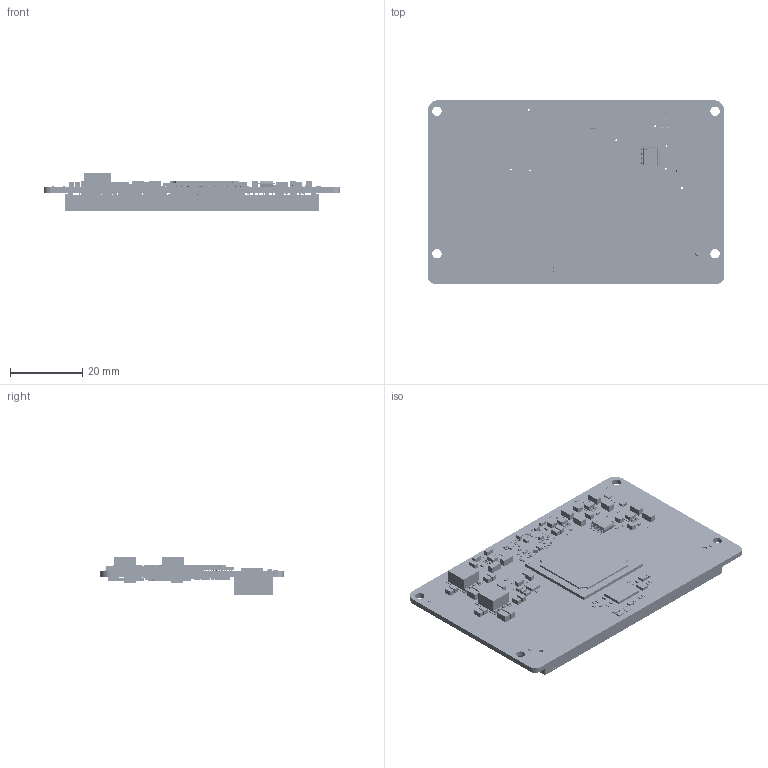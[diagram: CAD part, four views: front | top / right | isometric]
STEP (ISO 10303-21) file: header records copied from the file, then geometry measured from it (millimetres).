
FILE_DESCRIPTION(('Open CASCADE Model'),'2;1');
FILE_NAME('Open CASCADE Shape Model','2024-10-18T15:11:37',('Author'),( 'Open CASCADE'),'Open CASCADE STEP processor 7.5','Open CASCADE 7.5' ,'Unknown');
FILE_SCHEMA(('AUTOMOTIVE_DESIGN { 1 0 10303 214 1 1 1 1 }'));
Length unit declared in the file: millimetre
Products named in the file (1379): PCB; Board; Open CASCADE STEP translator 7.5 1.1.1; U9; FS1525; CAP; R104; 8028613136; Extruded; 8028612976; 8028613296; R103; R102; R101; R100; R99; User Library-RESC1608X05N; J1; SEAF-50-05_0-S-08-2-A-K-TR; SEAF-50-05.0-L-08-1-A-0-K-TR_BODY_2; SEAF-50-05.0-L-08-1-A-0-K-TR_cCON2; SEAF-50-05.0-L-08-1-A-0-K-TR_cCON22; SEAF-08_K_PAD; SEAF_TRIANGLE_FIRST_PIN; R96; 8028611296; 8028611136; 8028611456; R95; R94; R91; R90; R87; User Library-RESC2012X05N; Q2; SOT563_H06mm; SOT-563_DIO; Component1; Component2; Component3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
Assembly tree (4107 placements, depth 7):
  PCB
    Board
      Open CASCADE STEP translator 7.5 1.1.1
    U9
      FS1525
        FS1525
        CAP  x4
    R104
      8028613136  x2
        Extruded
      8028612976
        Extruded
      8028613296
        Extruded
    R103
      8028613136  x2
        Extruded
      8028612976
        Extruded
      8028613296
        Extruded
    R102
      8028613136  x2
        Extruded
      8028612976
        Extruded
      8028613296
        Extruded
    R101
      8028613136  x2
        Extruded
      8028612976
        Extruded
      8028613296
        Extruded
    R100
      8028613136  x2
        Extruded
      8028612976
        Extruded
      8028613296
        Extruded
    R99
      User Library-RESC1608X05N
    J1
      SEAF-50-05_0-S-08-2-A-K-TR
        SEAF-50-05.0-L-08-1-A-0-K-TR_BODY_2
        SEAF-50-05.0-L-08-1-A-0-K-TR_cCON2
        SEAF-50-05.0-L-08-1-A-0-K-TR_cCON22
        SEAF-08_K_PAD
        SEAF_TRIANGLE_FIRST_PIN
    R96
      8028611296  x2
        Extruded
      8028611136
        Extruded
      8028611456
        Extruded
    R95
      8028611296  x2
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Bounding box: 82 x 50.8 x 10.46 mm (x, y, z)
Volume: 9708 mm3; surface area: 24373 mm2
Topology: 2899 solids, 2899 shells, 20638 faces, 51647 edges, 32405 vertices
Faces by surface type: plane 16358, sphere 2553, cylinder 1084, bspline 642, torus 1
Full cylindrical faces by diameter (mm): 0.508 x8, 1.118 x1, 1.27 x2, 2.6 x4, 8.255 x1
Entity records: 382876 total; most frequent: CARTESIAN_POINT 66384, DIRECTION 57922, ORIENTED_EDGE 56808, EDGE_CURVE 28404, LINE 26670, VECTOR 26670, VERTEX_POINT 18825, AXIS2_PLACEMENT_3D 15626
